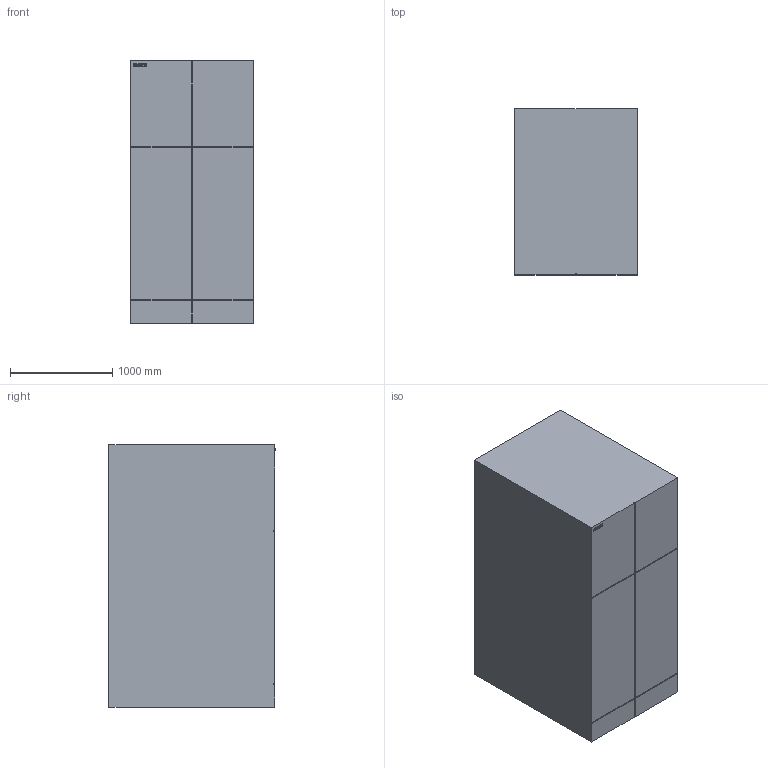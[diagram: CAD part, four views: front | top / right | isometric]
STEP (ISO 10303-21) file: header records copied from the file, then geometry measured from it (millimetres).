
FILE_DESCRIPTION(/* description */ (''),/* implementation_level */ '2;1');
FILE_NAME(/* name */ 'C:\ProgramData\Autodesk\RVT 2016\Libraries\Germany\__Siemens Entwicklung 8DA 8DB\DWG\Siemens_MV_switchgear_gas-insulated_8DA10_40_5kV - Double panel (bus sectionalizer) LV850 with raised.stp',/* time_stamp */ '2018-03-14T11:56:24+01:00',/* author */ ('prange'),/* organization */ (''),/* preprocessor_version */ 'ST-DEVELOPER v16.1',/* originating_system */ 'AutoCAD Mechanical',/* authorisation */ '');
FILE_SCHEMA (('AUTOMOTIVE_DESIGN { 1 0 10303 214 3 1 1 }'));
Length unit declared in the file: millimetre
Products named in the file (2): 8DA - Basic - Test-568498-_3D_; Product
Assembly tree (1 placements, depth 2):
  Product
    8DA - Basic - Test-568498-_3D_
Bounding box: 1200 x 1626.5 x 2570 mm (x, y, z)
Volume: 5011008750 mm3; surface area: 18527212.8 mm2
Topology: 2 solids, 9 shells, 39 faces, 247 edges, 259 vertices
Faces by surface type: plane 39
Entity records: 2404 total; most frequent: CARTESIAN_POINT 548, DIRECTION 331, ORIENTED_EDGE 291, LINE 247, VECTOR 247, EDGE_CURVE 207, VERTEX_POINT 179, STYLED_ITEM 49
